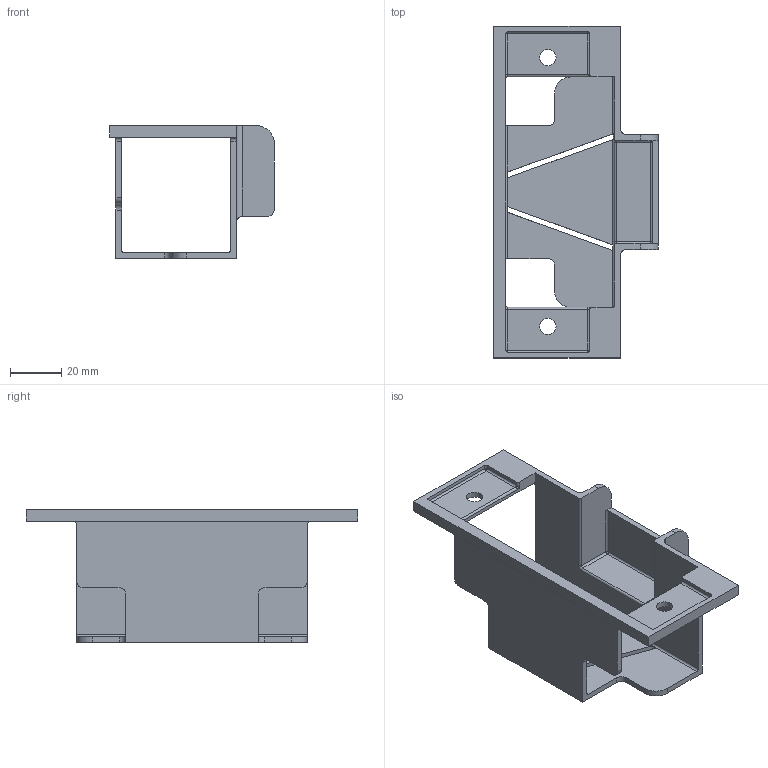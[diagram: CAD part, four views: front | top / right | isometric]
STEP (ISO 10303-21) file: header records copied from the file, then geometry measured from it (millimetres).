
FILE_DESCRIPTION((''),'1');
FILE_NAME('C:/Users/John Gilmour/Desktop/Dropbox/ACTIVE BUSINESS TO BUSINESS CUSTOMERS/RESIDENTIAL ELEVATOR, New Part/STEP FILES/Strike Housing REV 3.4.1 FINAL.stp', '2021-08-20T15:49:11',(''), (''), 'KCM Version 1.1.0.0', 'KeyCreator', '');
FILE_SCHEMA(('AUTOMOTIVE_DESIGN'));
Length unit declared in the file: inch
Bounding box: 64.22 x 129.41 x 51.77 mm (x, y, z)
Volume: 35328.2 mm3; surface area: 32155 mm2
Topology: 1 solids, 1 shells, 154 faces, 423 edges, 248 vertices
Faces by surface type: cylinder 63, plane 62, bspline 22, sphere 5, torus 2
Full cylindrical faces by diameter (mm): 6.35 x2
Entity records: 5688 total; most frequent: CARTESIAN_POINT 1914, ORIENTED_EDGE 808, DIRECTION 769, EDGE_CURVE 404, AXIS2_PLACEMENT_3D 266, VERTEX_POINT 248, VECTOR 237, LINE 237
